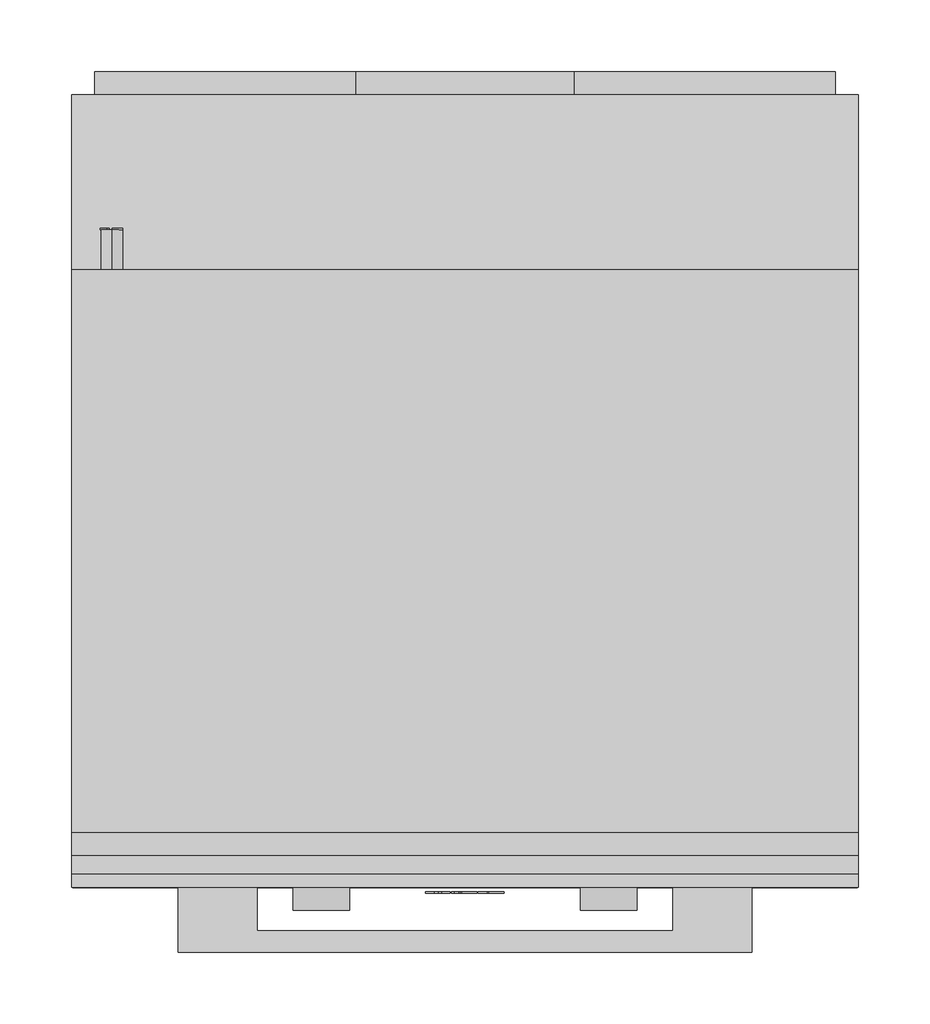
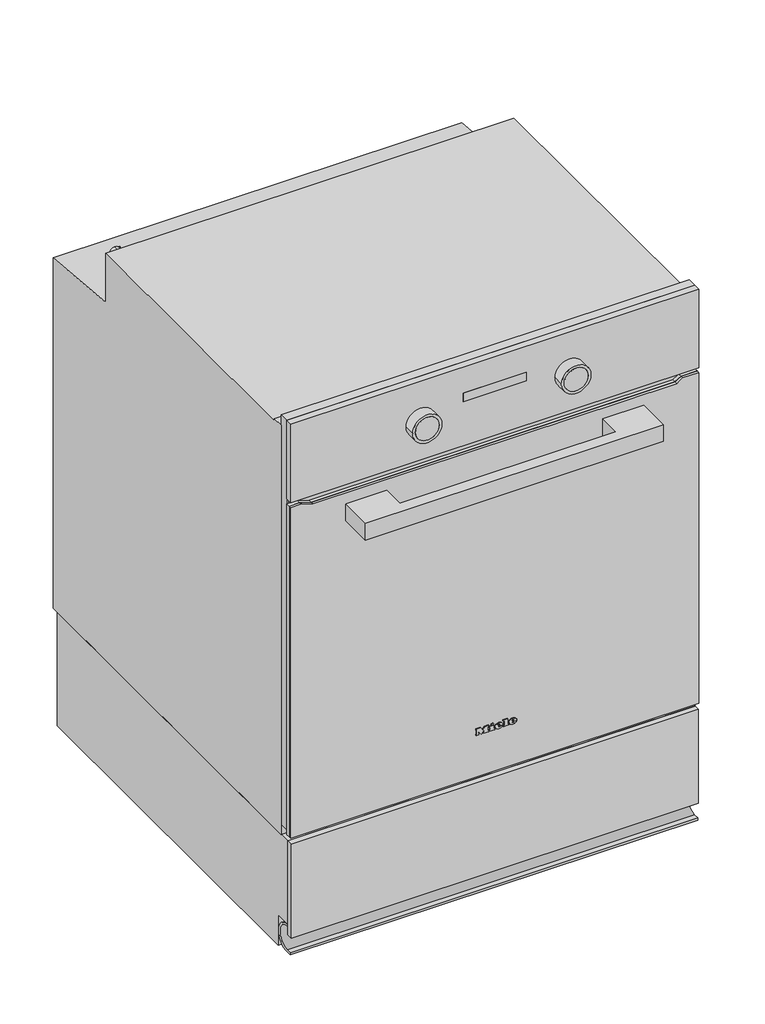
# Not in any storey: 1 proxy.
"""IFC4 building model written with IfcOpenShell, lengths in millimetres."""

import ifcopenshell
import ifcopenshell.guid

model = None  # the IFC model being written
_history = None  # IfcOwnerHistory: only IFC2X3 demands one
_inside = {}  # id of a spatial element -> (the spatial element, [elements in it])
_under = {}  # id of a project, library or spatial element -> (it, [spatial elements below it])
_declared = {}  # id of a project -> (the project, [libraries it declares])
_typed = {}  # id of a type object -> (the type object, [elements of that type])
_made_of = {}  # id of a material, layer set ... -> (it, [elements and type objects made of it])


def new_model(schema):
    """Start an empty IFC model of exactly this schema.

    Asked for "IFC4X3", IfcOpenShell would pick the latest addendum, in which some entities
    have other attributes; the version numbers below select the first issue.
    IFC2X3 requires an IfcOwnerHistory on every rooted entity: one is made here for all.
    """
    global model, _history
    if schema == "IFC4X3":
        model = ifcopenshell.file(schema_version=(4, 3, 0, 0))
    else:
        model = ifcopenshell.file(schema=schema)
    _inside.clear()
    _under.clear()
    _declared.clear()
    _typed.clear()
    _made_of.clear()
    _history = None
    if model.schema == "IFC2X3":
        org = make("IfcOrganization", Name="unknown")
        user = make(
            "IfcPersonAndOrganization",
            ThePerson=make("IfcPerson", FamilyName="unknown"),
            TheOrganization=org,
        )
        app = make(
            "IfcApplication",
            ApplicationDeveloper=org,
            Version="unknown",
            ApplicationFullName="unknown",
            ApplicationIdentifier="unknown",
        )
        _history = make(
            "IfcOwnerHistory",
            OwningUser=user,
            OwningApplication=app,
            ChangeAction="ADDED",
            CreationDate=0,
        )
    return model


def make(cls, **values):
    """One entity of the class cls with the attributes given. An attribute that is None is left unset."""
    return model.create_entity(
        cls, **{name: value for name, value in values.items() if value is not None}
    )


def rooted(cls, **values):
    """An entity with a GlobalId (a new one), such as an element, a storey or a relation."""
    return make(cls, GlobalId=ifcopenshell.guid.new(), OwnerHistory=_history, **values)


def si_unit(unit_type, name, prefix=None):
    """IfcSIUnit, for example si_unit("LENGTHUNIT", "METRE", prefix="MILLI")."""
    return make("IfcSIUnit", UnitType=unit_type, Prefix=prefix, Name=name)


def assignment(units):
    """IfcUnitAssignment: the units of a project."""
    return None if units is None else make("IfcUnitAssignment", Units=units)


def point(xyz):
    """IfcCartesianPoint."""
    return None if xyz is None else make("IfcCartesianPoint", Coordinates=xyz)


def direction(xyz):
    """IfcDirection."""
    return None if xyz is None else make("IfcDirection", DirectionRatios=xyz)


def frame(location, z_axis=None, x_axis=None):
    """IfcAxis2Placement3D, a coordinate frame: its origin and axes. An axis left out is left unset."""
    return make(
        "IfcAxis2Placement3D",
        Location=point(location),
        Axis=direction(z_axis),
        RefDirection=direction(x_axis),
    )


def frame_2d(location, x_axis=None):
    """IfcAxis2Placement2D, a coordinate frame in the plane: its origin and x axis."""
    return make(
        "IfcAxis2Placement2D", Location=point(location), RefDirection=direction(x_axis)
    )


def origin():
    """The frame at (0, 0, 0) with its axes left unset."""
    return frame((0.0, 0.0, 0.0))


def place(relative_to, where):
    """IfcLocalPlacement: puts the frame where relative to a parent placement (None: the world)."""
    return make(
        "IfcLocalPlacement", PlacementRelTo=relative_to, RelativePlacement=where
    )


def context(
    kind, dimensions, precision=None, world=None, true_north=None, identifier=None
):
    """IfcGeometricRepresentationContext, for example the 3D "Model" context."""
    return make(
        "IfcGeometricRepresentationContext",
        ContextIdentifier=identifier,
        ContextType=kind,
        CoordinateSpaceDimension=dimensions,
        Precision=precision,
        WorldCoordinateSystem=world,
        TrueNorth=true_north,
    )


def project(units=None, contexts=None):
    """IfcProject with its units and contexts."""
    return rooted(
        "IfcProject",
        Name="project",
        RepresentationContexts=contexts,
        UnitsInContext=assignment(units),
    )


def spatial(cls, under=None, at=None, **own):
    """A site, building, storey or space (cls), placed at a placement, below another one or the project."""
    s = rooted(cls, ObjectPlacement=at, **own)
    if under is not None:
        _under.setdefault(under.id(), (under, []))[1].append(s)
    return s


def polyline(points):
    """IfcPolyline through the points."""
    return make("IfcPolyline", Points=[point(p) for p in points])


def circle_curve(where, radius):
    """IfcCircle in the frame where."""
    return make("IfcCircle", Position=where, Radius=radius)


def ellipse_curve(where, semi_axis1, semi_axis2):
    """IfcEllipse in the frame where."""
    return make(
        "IfcEllipse", Position=where, SemiAxis1=semi_axis1, SemiAxis2=semi_axis2
    )


def trimmed(basis, trim1, trim2, sense, master):
    """IfcTrimmedCurve: the piece of a basis curve between two trims."""
    return make(
        "IfcTrimmedCurve",
        BasisCurve=basis,
        Trim1=trim1,
        Trim2=trim2,
        SenseAgreement=sense,
        MasterRepresentation=master,
    )


def segment(curve, same_sense, transition):
    """IfcCompositeCurveSegment."""
    return make(
        "IfcCompositeCurveSegment",
        Transition=transition,
        SameSense=same_sense,
        ParentCurve=curve,
    )


def composite_curve(segments, self_intersect=None):
    """IfcCompositeCurve: segments joined end to end."""
    return make("IfcCompositeCurve", Segments=segments, SelfIntersect=self_intersect)


def outline(outer, holes=None, kind="AREA"):
    """IfcArbitraryClosedProfileDef: a profile drawn as a closed curve; with holes, ...WithVoids."""
    if holes is None:
        return make("IfcArbitraryClosedProfileDef", ProfileType=kind, OuterCurve=outer)
    return make(
        "IfcArbitraryProfileDefWithVoids",
        ProfileType=kind,
        OuterCurve=outer,
        InnerCurves=holes,
    )


def extrude(swept, where, along, depth):
    """IfcExtrudedAreaSolid: the profile swept, set in the frame where, extruded along a direction by depth."""
    return make(
        "IfcExtrudedAreaSolid",
        SweptArea=swept,
        Position=where,
        ExtrudedDirection=direction(along),
        Depth=depth,
    )


def faces_of(points, faces, orient=None, outer=None):
    """IfcFace entities. A face is a list of loops; a loop is a list of indices into points, from 0.

    orient and outer hold one flag for each loop. By default every Orientation is true, the
    first loop of a face is its IfcFaceOuterBound and the others are IfcFaceBound.
    """
    made = []
    for i, loops in enumerate(faces):
        bounds = []
        for j, loop in enumerate(loops):
            is_outer = j == 0 if outer is None else outer[i][j]
            bounds.append(
                make(
                    "IfcFaceOuterBound" if is_outer else "IfcFaceBound",
                    Bound=make("IfcPolyLoop", Polygon=[points[k] for k in loop]),
                    Orientation=True if orient is None else orient[i][j],
                )
            )
        made.append(make("IfcFace", Bounds=bounds))
    return made


def faceted_brep(points, faces, orient=None, outer=None, voids=None):
    """IfcFacetedBrep: a solid bounded by flat faces; with voids (closed shells), ...WithVoids."""
    shared = [point(p) for p in points]
    hull = make("IfcClosedShell", CfsFaces=faces_of(shared, faces, orient, outer))
    if voids is None:
        return make("IfcFacetedBrep", Outer=hull)
    return make(
        "IfcFacetedBrepWithVoids",
        Outer=hull,
        Voids=[
            make(cls, CfsFaces=faces_of(shared, fs, o, b)) for cls, fs, o, b in voids
        ],
    )


def shape(context_of_items, identifier, shape_type, items):
    """IfcShapeRepresentation: the items that make up one representation, for example the "Body"."""
    return make(
        "IfcShapeRepresentation",
        ContextOfItems=context_of_items,
        RepresentationIdentifier=identifier,
        RepresentationType=shape_type,
        Items=items,
    )


def source(mapping_origin, context_of_items, identifier, shape_type, items):
    """IfcRepresentationMap: a shape defined once, which mapped items show again and again."""
    return make(
        "IfcRepresentationMap",
        MappingOrigin=mapping_origin,
        MappedRepresentation=shape(context_of_items, identifier, shape_type, items),
    )


def transform(
    local_origin,
    x_axis=None,
    y_axis=None,
    z_axis=None,
    scale=None,
    scale2=None,
    scale3=None,
    uniform=True,
):
    """IfcCartesianTransformationOperator3D, or its non-uniform kind. x_axis, y_axis, z_axis: its Axis1, 2, 3."""
    if uniform:
        return make(
            "IfcCartesianTransformationOperator3D",
            Axis1=direction(x_axis),
            Axis2=direction(y_axis),
            LocalOrigin=point(local_origin),
            Scale=scale,
            Axis3=direction(z_axis),
        )
    return make(
        "IfcCartesianTransformationOperator3DnonUniform",
        Axis1=direction(x_axis),
        Axis2=direction(y_axis),
        LocalOrigin=point(local_origin),
        Scale=scale,
        Axis3=direction(z_axis),
        Scale2=scale2,
        Scale3=scale3,
    )


def mapped(mapping_source, mapping_target):
    """IfcMappedItem: shows the shape of a source again, moved by a transform."""
    return make(
        "IfcMappedItem", MappingSource=mapping_source, MappingTarget=mapping_target
    )


def made_of(thing, what):
    """Note that an element or type object is made of a material, layer set ...; save() writes the relation."""
    if what is not None:
        _made_of.setdefault(what.id(), (what, []))[1].append(thing)
    return thing


def element(
    cls,
    number,
    at=None,
    inside=None,
    cuts=None,
    type_object=None,
    material=None,
    context=None,
    identifier="Body",
    shape_type=None,
    held_by="IfcProductDefinitionShape",
    body=None,
    shapes=None,
    **own,
):
    """One element of the class cls, such as IfcWall. Its Tag is "e" and its number.

    at: its placement. inside: the storey or other place that contains it. cuts: it is an
    opening in that element (IfcRelVoidsElement). A single representation is given by context,
    identifier, shape_type and body (its items); several are given by shapes. held_by: the class
    of the entity that holds the representations. save() writes the other relations.
    """
    e = rooted(cls, Tag="e%d" % number, ObjectPlacement=at, **own)
    if body is not None:
        shapes = [shape(context, identifier, shape_type, body)]
    if shapes is not None:
        e.Representation = make(held_by, Representations=shapes)
    if inside is not None:
        _inside.setdefault(inside.id(), (inside, []))[1].append(e)
    if cuts is not None:
        rooted(
            "IfcRelVoidsElement", RelatingBuildingElement=cuts, RelatedOpeningElement=e
        )
    if type_object is not None:
        _typed.setdefault(type_object.id(), (type_object, []))[1].append(e)
    return made_of(e, material)


def aggregate(whole, parts):
    """IfcRelAggregates: a whole, such as a stair, and the parts it consists of."""
    return rooted("IfcRelAggregates", RelatingObject=whole, RelatedObjects=parts)


def save(model, path):
    """Write the relations noted so far, then the file.

    IfcRelAggregates (storeys below a building ...), IfcRelContainedInSpatialStructure (elements
    in a storey), IfcRelDefinesByType, IfcRelAssociatesMaterial and IfcRelDeclares: one each for
    every whole, place, type object, material and project.
    """
    for whole, parts in _under.values():
        aggregate(whole, parts)
    for where, things in _inside.values():
        rooted(
            "IfcRelContainedInSpatialStructure",
            RelatedElements=things,
            RelatingStructure=where,
        )
    for kind, things in _typed.values():
        rooted("IfcRelDefinesByType", RelatedObjects=things, RelatingType=kind)
    for what, things in _made_of.values():
        rooted("IfcRelAssociatesMaterial", RelatedObjects=things, RelatingMaterial=what)
    for by, libraries in _declared.values():
        rooted("IfcRelDeclares", RelatingContext=by, RelatedDefinitions=libraries)
    model.write(path)


def plane_surface(at):
    """IfcPlane: the flat surface through the origin of the frame at, square to its z axis."""
    return make("IfcPlane", Position=at)


def cylinder_surface(at, radius):
    """IfcCylindricalSurface: all points at the distance radius from the z axis of the frame at."""
    return make("IfcCylindricalSurface", Position=at, Radius=radius)


def revolved_surface(curve, axis_point, axis_direction):
    """IfcSurfaceOfRevolution: the curve turned about the line through axis_point along axis_direction."""
    return make(
        "IfcSurfaceOfRevolution",
        SweptCurve=make("IfcArbitraryOpenProfileDef", ProfileType="CURVE", Curve=curve),
        AxisPosition=make("IfcAxis1Placement", Location=point(axis_point), Axis=direction(axis_direction)),
    )


def extruded_surface(curve, direction_of_extrusion, depth):
    """IfcSurfaceOfLinearExtrusion: the curve pushed along a direction by depth."""
    return make(
        "IfcSurfaceOfLinearExtrusion",
        SweptCurve=make("IfcArbitraryOpenProfileDef", ProfileType="CURVE", Curve=curve),
        ExtrudedDirection=direction(direction_of_extrusion),
        Depth=depth,
    )


def advanced_brep(points, edges, surfaces, faces):
    """IfcAdvancedBrep: a solid bounded by faces that lie on surfaces and meet in shared edges.

    An edge is (start, end): straight between two places in points (the first is 0);
    or (start, end, curve); or (start, end, curve, False) where it runs against its curve.
    A face is (place in surfaces, loops), or (place, loops, False) where it looks against
    its surface's normal. A loop lists edges by number (the first is 1), with a minus sign
    where the edge is run from its end to its start. The first loop is the outer one.
    """
    corners = [point(p) for p in points]
    vertices = [make("IfcVertexPoint", VertexGeometry=c) for c in corners]
    made = []
    for start, end, *more in edges:
        made.append(
            make(
                "IfcEdgeCurve",
                EdgeStart=vertices[start],
                EdgeEnd=vertices[end],
                EdgeGeometry=more[0] if more else make("IfcPolyline", Points=[corners[start], corners[end]]),
                SameSense=more[1] if len(more) > 1 else True,
            )
        )
    hull = []
    for where, loops, *sense in faces:
        bounds = []
        for j, loop in enumerate(loops):
            ring = [make("IfcOrientedEdge", EdgeElement=made[abs(k) - 1], Orientation=k > 0) for k in loop]
            bounds.append(
                make(
                    "IfcFaceOuterBound" if j == 0 else "IfcFaceBound",
                    Bound=make("IfcEdgeLoop", EdgeList=ring),
                    Orientation=True,
                )
            )
        hull.append(make("IfcAdvancedFace", Bounds=bounds, FaceSurface=surfaces[where], SameSense=sense[0] if sense else True))
    return make("IfcAdvancedBrep", Outer=make("IfcClosedShell", CfsFaces=hull))


def specialty_equipment_9ac13989(model_context):
    return source(origin(), model_context, "Body", "SolidModel", [
        extrude(outline(polyline([(-273.5, -14.0), (273.5, -14.0), (273.5, -22.0), (-273.5, -22.0), (-273.5, -14.0)])), frame((0.0, 0.0, 28.0), z_axis=(0.0, 0.0, 1.0), x_axis=(1.0, 0.0, 0.0)), (0.0, 0.0, 1.0), 133.5),
        extrude(outline(composite_curve([segment(polyline([(-20.0, 3.3413786), (-20.0, 6.5166751), (-12.6417749, 6.5166751)]), True, "CONTINUOUS"), segment(trimmed(circle_curve(frame_2d((-12.6417749, 23.0333249)), 16.5166498), [point((-12.6417749, 6.5166751))], [point((-11.3579007, 39.5))], True, "CARTESIAN"), True, "CONTINUOUS"), segment(polyline([(-11.3579007, 39.5), (-14.0, 39.5), (-14.0, 42.0), (-12.0, 42.0)]), True, "CONTINUOUS"), segment(trimmed(circle_curve(frame_2d((-12.0, 23.0)), 19.0), [point((-12.0, 42.0))], [point((7.0, 23.0))], False, "CARTESIAN"), True, "CONTINUOUS"), segment(trimmed(circle_curve(frame_2d((-14.9470942, 23.0)), 21.9470942), [point((7.0, 23.0))], [point((3.3965309, 10.9506696))], False, "CARTESIAN"), True, "CONTINUOUS"), segment(trimmed(circle_curve(frame_2d((-12.0, 22.7225846)), 19.381206), [point((3.3965309, 10.9506696))], [point((-12.0, 3.3413786))], False, "CARTESIAN"), True, "CONTINUOUS"), segment(polyline([(-12.0, 3.3413786), (-20.0, 3.3413786)]), True, "CONTINUOUS")], self_intersect=False)), frame((-273.5, 0.0, 0.0), z_axis=(1.0, 0.0, 0.0), x_axis=(0.0, 1.0, 0.0)), (0.0, 0.0, 1.0), 547.0),
        extrude(outline(polyline([(-14.0, 162.0), (522.0, 162.0), (522.0, 0.0), (8.0, 0.0), (8.0, 43.1784801), (-14.0, 43.1784801), (-14.0, 162.0)])), frame((-273.5, 0.0, 0.0), z_axis=(1.0, 0.0, 0.0), x_axis=(0.0, 1.0, 0.0)), (0.0, 0.0, 1.0), 547.0),
        advanced_brep(
        [(21.28, -26.0, 234.133), (21.28, -26.0, 235.042), (27.301, -26.0, 235.042), (16.825, -26.0, 235.042), (19.3, -26.0, 232.0), (27.148, -26.0, 234.133), (24.43, -26.0, 234.133), (22.288, -26.0, 233.125), (21.28, -26.0, 236.194), (21.28, -26.0, 237.175), (22.819, -26.0, 237.175), (22.819, -26.0, 236.194), (21.28, -25.0, 234.133), (22.288, -25.0, 233.125), (24.43, -25.0, 234.133), (27.148, -25.0, 234.133), (19.3, -25.0, 232.0), (16.825, -25.0, 235.042), (27.301, -25.0, 235.042), (21.28, -25.0, 235.042), (21.28, -25.0, 236.194), (22.819, -25.0, 236.194), (22.819, -25.0, 237.175), (21.28, -25.0, 237.175)],
        [
            (0, 1),
            (1, 2),
            (2, 3, ellipse_curve(frame((22.063, -26.0, 235.042), z_axis=(0.0, -1.0, 0.0), x_axis=(-1.0, 0.0, 0.0)), 5.238, 4.329)),
            (3, 4, circle_curve(frame((20.3080491, -26.0, 235.348), z_axis=(0.0, -1.0, 0.0), x_axis=(0.0, 0.0, -1.0)), 3.4964649)),
            (4, 5, circle_curve(frame((21.9581428, -26.0, 237.724), z_axis=(0.0, -1.0, 0.0), x_axis=(0.0, 0.0, -1.0)), 6.3110933)),
            (5, 6),
            (6, 7, circle_curve(frame((22.7279412, -26.0, 234.97), z_axis=(0.0, 1.0, 0.0), x_axis=(0.0, 0.0, -1.0)), 1.896727)),
            (7, 0, circle_curve(frame((22.288, -26.0, 234.133), z_axis=(0.0, 1.0, 0.0), x_axis=(0.0, 0.0, -1.0)), 1.008)),
            (8, 9),
            (9, 10, circle_curve(frame((22.0495, -26.0, 237.175), z_axis=(0.0, 1.0, 0.0), x_axis=(0.0, 0.0, -1.0)), 0.7695)),
            (10, 11),
            (11, 8),
            (12, 13, circle_curve(frame((22.288, -25.0, 234.133), z_axis=(0.0, -1.0, 0.0), x_axis=(0.0, 0.0, -1.0)), 1.008)),
            (13, 14, circle_curve(frame((22.7279412, -25.0, 234.97), z_axis=(0.0, -1.0, 0.0), x_axis=(0.0, 0.0, -1.0)), 1.896727)),
            (14, 15),
            (15, 16, circle_curve(frame((21.9581428, -25.0, 237.724), z_axis=(0.0, 1.0, 0.0), x_axis=(0.0, 0.0, -1.0)), 6.3110933)),
            (16, 17, circle_curve(frame((20.3080491, -25.0, 235.348), z_axis=(0.0, 1.0, 0.0), x_axis=(0.0, 0.0, -1.0)), 3.4964649)),
            (17, 18, ellipse_curve(frame((22.063, -25.0, 235.042), z_axis=(0.0, 1.0, 0.0), x_axis=(-1.0, 0.0, 0.0)), 5.238, 4.329)),
            (18, 19),
            (19, 12),
            (20, 21),
            (21, 22),
            (22, 23, circle_curve(frame((22.0495, -25.0, 237.175), z_axis=(0.0, -1.0, 0.0), x_axis=(0.0, 0.0, -1.0)), 0.7695)),
            (23, 20),
            (0, 12),
            (19, 1),
            (18, 2),
            (5, 15),
            (14, 6),
            (17, 3),
            (13, 7),
            (16, 4),
            (8, 20),
            (23, 9),
            (22, 10),
            (21, 11),
        ],
        [
            plane_surface(frame((21.28, -26.0, 235.042), z_axis=(0.0, -1.0, 0.0), x_axis=(0.0, 0.0, 1.0))),
            plane_surface(frame((21.28, -25.0, 235.042), z_axis=(0.0, 1.0, 0.0), x_axis=(0.0, 0.0, -1.0))),
            plane_surface(frame((21.28, -26.0, 234.133), z_axis=(1.0, 0.0, 0.0), x_axis=(0.0, 1.0, 0.0))),
            plane_surface(frame((21.28, -26.0, 235.042), z_axis=(0.0, 0.0, -1.0), x_axis=(0.0, 1.0, 0.0))),
            plane_surface(frame((27.148, -26.0, 234.133), z_axis=(0.0, 0.0, 1.0), x_axis=(0.0, 1.0, 0.0))),
            extruded_surface(trimmed(ellipse_curve(frame((22.063, -24.0, 235.042), z_axis=(0.0, -1.0, 0.0), x_axis=(-1.0, 0.0, 0.0)), 5.238, 4.329), [point((27.301, -24.0, 235.042))], [point((16.825, -24.0, 235.042))], True, "CARTESIAN"), (0.0, -1.0, 0.0), 1.0),
            revolved_surface(polyline([(22.7279412, -25.0, 233.073273), (22.7279412, -26.0, 233.073273)]), (22.7279412, -25.0, 234.97), (0.0, 1.0, 0.0)),
            revolved_surface(polyline([(22.288, -25.0, 233.125), (22.288, -26.0, 233.125)]), (22.288, -25.0, 234.133), (0.0, 1.0, 0.0)),
            cylinder_surface(frame((20.3080491, -25.0, 235.348), z_axis=(0.0, -1.0, 0.0), x_axis=(0.0, 0.0, -1.0)), 3.4964649),
            cylinder_surface(frame((21.9581428, -25.0, 237.724), z_axis=(0.0, -1.0, 0.0), x_axis=(0.0, 0.0, -1.0)), 6.3110933),
            plane_surface(frame((21.28, -26.0, 236.194), z_axis=(1.0, 0.0, 0.0), x_axis=(0.0, 1.0, 0.0))),
            revolved_surface(polyline([(22.0495, -25.0, 236.40550000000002), (22.0495, -26.0, 236.40550000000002)]), (22.0495, -25.0, 237.175), (0.0, 1.0, 0.0)),
            plane_surface(frame((22.819, -26.0, 237.175), z_axis=(-1.0, 0.0, 0.0), x_axis=(0.0, 1.0, 0.0))),
            plane_surface(frame((22.819, -26.0, 236.194), z_axis=(0.0, 0.0, 1.0), x_axis=(0.0, 1.0, 0.0))),
        ],
        [
            (0, [[1, 2, 3, 4, 5, 6, 7, 8], [9, 10, 11, 12]]),
            (1, [[13, 14, 15, 16, 17, 18, 19, 20], [21, 22, 23, 24]]),
            (2, [[-1, 25, -20, 26]]),
            (3, [[-2, -26, -19, 27]]),
            (4, [[-6, 28, -15, 29]]),
            (5, [[-3, -27, -18, 30]]),
            (6, [[-7, -29, -14, 31]]),
            (7, [[-8, -31, -13, -25]]),
            (8, [[-4, -30, -17, 32]]),
            (9, [[-5, -32, -16, -28]]),
            (10, [[-9, 33, -24, 34]]),
            (11, [[-10, -34, -23, 35]]),
            (12, [[-11, -35, -22, 36]]),
            (13, [[-12, -36, -21, -33]]),
        ],
    ),
        advanced_brep(
        [(2.497, -26.0, 234.133), (2.497, -26.0, 235.042), (8.518, -26.0, 235.042), (-1.958, -26.0, 235.042), (0.517, -26.0, 232.0), (8.365, -26.0, 234.133), (5.647, -26.0, 234.133), (3.505, -26.0, 233.125), (2.497, -26.0, 236.194), (2.497, -26.0, 237.175), (4.036, -26.0, 237.175), (4.036, -26.0, 236.194), (2.497, -25.0, 234.133), (3.505, -25.0, 233.125), (5.647, -25.0, 234.133), (8.365, -25.0, 234.133), (0.517, -25.0, 232.0), (-1.958, -25.0, 235.042), (8.518, -25.0, 235.042), (2.497, -25.0, 235.042), (2.497, -25.0, 236.194), (4.036, -25.0, 236.194), (4.036, -25.0, 237.175), (2.497, -25.0, 237.175)],
        [
            (0, 1),
            (1, 2),
            (2, 3, ellipse_curve(frame((3.28, -26.0, 235.042), z_axis=(0.0, -1.0, 0.0), x_axis=(-1.0, 0.0, 0.0)), 5.238, 4.329)),
            (3, 4, circle_curve(frame((1.5250491, -26.0, 235.348), z_axis=(0.0, -1.0, 0.0), x_axis=(0.0, 0.0, -1.0)), 3.4964649)),
            (4, 5, circle_curve(frame((3.1751428, -26.0, 237.724), z_axis=(0.0, -1.0, 0.0), x_axis=(0.0, 0.0, -1.0)), 6.3110933)),
            (5, 6),
            (6, 7, circle_curve(frame((3.9449412, -26.0, 234.97), z_axis=(0.0, 1.0, 0.0), x_axis=(0.0, 0.0, -1.0)), 1.896727)),
            (7, 0, circle_curve(frame((3.505, -26.0, 234.133), z_axis=(0.0, 1.0, 0.0), x_axis=(0.0, 0.0, -1.0)), 1.008)),
            (8, 9),
            (9, 10, circle_curve(frame((3.2665, -26.0, 237.175), z_axis=(0.0, 1.0, 0.0), x_axis=(0.0, 0.0, -1.0)), 0.7695)),
            (10, 11),
            (11, 8),
            (12, 13, circle_curve(frame((3.505, -25.0, 234.133), z_axis=(0.0, -1.0, 0.0), x_axis=(0.0, 0.0, -1.0)), 1.008)),
            (13, 14, circle_curve(frame((3.9449412, -25.0, 234.97), z_axis=(0.0, -1.0, 0.0), x_axis=(0.0, 0.0, -1.0)), 1.896727)),
            (14, 15),
            (15, 16, circle_curve(frame((3.1751428, -25.0, 237.724), z_axis=(0.0, 1.0, 0.0), x_axis=(0.0, 0.0, -1.0)), 6.3110933)),
            (16, 17, circle_curve(frame((1.5250491, -25.0, 235.348), z_axis=(0.0, 1.0, 0.0), x_axis=(0.0, 0.0, -1.0)), 3.4964649)),
            (17, 18, ellipse_curve(frame((3.28, -25.0, 235.042), z_axis=(0.0, 1.0, 0.0), x_axis=(-1.0, 0.0, 0.0)), 5.238, 4.329)),
            (18, 19),
            (19, 12),
            (20, 21),
            (21, 22),
            (22, 23, circle_curve(frame((3.2665, -25.0, 237.175), z_axis=(0.0, -1.0, 0.0), x_axis=(0.0, 0.0, -1.0)), 0.7695)),
            (23, 20),
            (0, 12),
            (19, 1),
            (18, 2),
            (5, 15),
            (14, 6),
            (17, 3),
            (13, 7),
            (16, 4),
            (8, 20),
            (23, 9),
            (22, 10),
            (21, 11),
        ],
        [
            plane_surface(frame((2.497, -26.0, 235.042), z_axis=(0.0, -1.0, 0.0), x_axis=(0.0, 0.0, 1.0))),
            plane_surface(frame((2.497, -25.0, 235.042), z_axis=(0.0, 1.0, 0.0), x_axis=(0.0, 0.0, -1.0))),
            plane_surface(frame((2.497, -26.0, 234.133), z_axis=(1.0, 0.0, 0.0), x_axis=(0.0, 1.0, 0.0))),
            plane_surface(frame((2.497, -26.0, 235.042), z_axis=(0.0, 0.0, -1.0), x_axis=(0.0, 1.0, 0.0))),
            plane_surface(frame((8.365, -26.0, 234.133), z_axis=(0.0, 0.0, 1.0), x_axis=(0.0, 1.0, 0.0))),
            extruded_surface(trimmed(ellipse_curve(frame((3.28, -24.0, 235.042), z_axis=(0.0, -1.0, 0.0), x_axis=(-1.0, 0.0, 0.0)), 5.238, 4.329), [point((8.518, -24.0, 235.042))], [point((-1.958, -24.0, 235.042))], True, "CARTESIAN"), (0.0, -1.0, 0.0), 1.0),
            revolved_surface(polyline([(3.9449412, -25.0, 233.073273), (3.9449412, -26.0, 233.073273)]), (3.9449412, -25.0, 234.97), (0.0, 1.0, 0.0)),
            revolved_surface(polyline([(3.505, -25.0, 233.125), (3.505, -26.0, 233.125)]), (3.505, -25.0, 234.133), (0.0, 1.0, 0.0)),
            cylinder_surface(frame((1.5250491, -25.0, 235.348), z_axis=(0.0, -1.0, 0.0), x_axis=(0.0, 0.0, -1.0)), 3.4964649),
            cylinder_surface(frame((3.1751428, -25.0, 237.724), z_axis=(0.0, -1.0, 0.0), x_axis=(0.0, 0.0, -1.0)), 6.3110933),
            plane_surface(frame((2.497, -26.0, 236.194), z_axis=(1.0, 0.0, 0.0), x_axis=(0.0, 1.0, 0.0))),
            revolved_surface(polyline([(3.2665, -25.0, 236.40550000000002), (3.2665, -26.0, 236.40550000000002)]), (3.2665, -25.0, 237.175), (0.0, 1.0, 0.0)),
            plane_surface(frame((4.036, -26.0, 237.175), z_axis=(-1.0, 0.0, 0.0), x_axis=(0.0, 1.0, 0.0))),
            plane_surface(frame((4.036, -26.0, 236.194), z_axis=(0.0, 0.0, 1.0), x_axis=(0.0, 1.0, 0.0))),
        ],
        [
            (0, [[1, 2, 3, 4, 5, 6, 7, 8], [9, 10, 11, 12]]),
            (1, [[13, 14, 15, 16, 17, 18, 19, 20], [21, 22, 23, 24]]),
            (2, [[-1, 25, -20, 26]]),
            (3, [[-2, -26, -19, 27]]),
            (4, [[-6, 28, -15, 29]]),
            (5, [[-3, -27, -18, 30]]),
            (6, [[-7, -29, -14, 31]]),
            (7, [[-8, -31, -13, -25]]),
            (8, [[-4, -30, -17, 32]]),
            (9, [[-5, -32, -16, -28]]),
            (10, [[-9, 33, -24, 34]]),
            (11, [[-10, -34, -23, 35]]),
            (12, [[-11, -35, -22, 36]]),
            (13, [[-12, -36, -21, -33]]),
        ],
    ),
        extrude(outline(polyline([(240.469, -7.34), (239.011, -6.656), (240.433, -3.605), (241.891, -4.28), (240.469, -7.34)])), frame((0.0, -26.0, 0.0), z_axis=(0.0, 1.0, 0.0), x_axis=(0.0, 0.0, 1.0)), (0.0, 0.0, 1.0), 1.0),
        extrude(outline(polyline([(238.813, -9.563), (237.202, -9.563), (237.202, -8.492), (233.512, -8.492), (233.512, -9.563), (232.0, -9.563), (232.0, -2.462), (233.512, -2.462), (233.512, -3.506), (238.813, -3.506), (238.813, -9.563)])), frame((0.0, -26.0, 0.0), z_axis=(0.0, 1.0, 0.0), x_axis=(0.0, 0.0, 1.0)), (0.0, 0.0, 1.0), 1.0),
        extrude(outline(polyline([(239.533, 9.022), (239.533, 10.102), (233.512, 10.102), (233.512, 9.022), (232.0, 9.022), (232.0, 16.321), (233.512, 16.321), (233.512, 15.214), (241.0, 15.214), (241.0, 9.022), (239.533, 9.022)])), frame((0.0, -26.0, 0.0), z_axis=(0.0, 1.0, 0.0), x_axis=(0.0, 0.0, 1.0)), (0.0, 0.0, 1.0), 1.0),
        extrude(outline(polyline([(239.533, -27.5), (239.533, -26.411), (233.512, -26.411), (233.512, -27.5), (232.0, -27.5), (232.0, -23.54), (233.512, -23.54), (233.512, -24.62), (237.3341247, -24.62), (232.0, -20.597), (237.4402223, -16.556), (233.512, -16.556), (233.512, -17.663), (232.0, -17.663), (232.0, -10.481), (233.512, -10.481), (233.512, -11.624), (239.533, -11.624), (239.533, -10.481), (241.0, -10.481), (241.0, -15.962), (237.625, -18.59), (241.0, -21.227), (241.0, -27.5), (239.533, -27.5)])), frame((0.0, -26.0, 0.0), z_axis=(0.0, 1.0, 0.0), x_axis=(0.0, 0.0, 1.0)), (0.0, 0.0, 1.0), 1.0),
        extrude(outline(polyline([(-200.0, -67.0), (-200.0, -22.0), (-145.0, -22.0), (-145.0, -52.0), (145.0, -52.0), (145.0, -22.0), (200.0, -22.0), (200.0, -67.0), (-200.0, -67.0)])), frame((0.0, 0.0, 595.0), z_axis=(0.0, 0.0, 1.0), x_axis=(1.0, 0.0, 0.0)), (0.0, 0.0, 1.0), 24.0),
        extrude(outline(polyline([(639.5, -274.0), (170.0, -274.0), (170.0, 274.0), (639.5, 274.0), (639.5, 252.5209298), (634.5, 244.0), (634.5, -244.0), (639.5, -260.3542631), (639.5, -274.0)])), frame((0.0, -18.0, 0.0), z_axis=(0.0, 1.0, 0.0), x_axis=(0.0, 0.0, 1.0)), (0.0, 0.0, 1.0), 5.0),
        extrude(outline(polyline([(639.5, -274.0), (170.0, -274.0), (170.0, 274.0), (639.5, 274.0), (639.5, 252.5209298), (634.5, 244.0), (634.5, -244.0), (639.5, -260.3542631), (639.5, -274.0)])), frame((0.0, -22.0, 0.0), z_axis=(0.0, 1.0, 0.0), x_axis=(0.0, 0.0, 1.0)), (0.0, 0.0, 1.0), 4.0),
        extrude(outline(polyline([(42.5, -22.0), (-42.5, -22.0), (-42.5, -20.0), (42.5, -20.0), (42.5, -22.0)])), frame((0.0, 0.0, 709.0), z_axis=(0.0, 0.0, 1.0), x_axis=(1.0, 0.0, 0.0)), (0.0, 0.0, 1.0), 12.0),
        faceted_brep([(274.0, -13.0, 758.0), (274.0, -13.0, 646.5), (-274.0, -13.0, 646.5), (-274.0, -13.0, 758.0), (274.0, -22.0, 646.5), (-274.0, -22.0, 646.5), (274.0, -22.0, 758.0), (-274.0, -22.0, 758.0), (-42.5, -22.0, 721.0), (42.5, -22.0, 721.0), (42.5, -22.0, 709.0), (-42.5, -22.0, 709.0), (-42.5, -20.0, 721.0), (42.5, -20.0, 721.0), (-42.5, -20.0, 709.0), (42.5, -20.0, 709.0)], [[[0, 1, 2, 3]], [[4, 5, 2, 1]], [[6, 7, 5, 4], [8, 9, 10, 11]], [[12, 13, 9, 8]], [[7, 6, 0, 3]], [[5, 7, 3, 2]], [[6, 4, 1, 0]], [[13, 12, 14, 15]], [[14, 12, 8, 11]], [[15, 14, 11, 10]], [[13, 15, 10, 9]]]),
        extrude(outline(composite_curve([segment(trimmed(circle_curve(frame_2d((700.5, -100.0)), 16.0), [point((700.5, -116.0))], [point((700.5, -84.0))], False, "CARTESIAN"), True, "CONTINUOUS"), segment(trimmed(circle_curve(frame_2d((700.5, -100.0)), 16.0), [point((700.5, -84.0))], [point((700.5, -116.0))], False, "CARTESIAN"), True, "CONTINUOUS")], self_intersect=False)), frame((0.0, -38.0, 0.0), z_axis=(0.0, 1.0, 0.0), x_axis=(0.0, 0.0, 1.0)), (0.0, 0.0, 1.0), 16.0),
        extrude(outline(composite_curve([segment(trimmed(circle_curve(frame_2d((700.5, 100.0)), 16.0), [point((700.5, 84.0))], [point((700.5, 116.0))], False, "CARTESIAN"), True, "CONTINUOUS"), segment(trimmed(circle_curve(frame_2d((700.5, 100.0)), 16.0), [point((700.5, 116.0))], [point((700.5, 84.0))], False, "CARTESIAN"), True, "CONTINUOUS")], self_intersect=False)), frame((0.0, -38.0, 0.0), z_axis=(0.0, 1.0, 0.0), x_axis=(0.0, 0.0, 1.0)), (0.0, 0.0, 1.0), 16.0),
        extrude(outline(composite_curve([segment(trimmed(circle_curve(frame_2d((700.5, 100.0)), 19.7), [point((700.5, 80.3))], [point((700.5, 119.7))], False, "CARTESIAN"), True, "CONTINUOUS"), segment(trimmed(circle_curve(frame_2d((700.5, 100.0)), 19.7), [point((700.5, 119.7))], [point((700.5, 80.3))], False, "CARTESIAN"), True, "CONTINUOUS")], self_intersect=False), holes=[composite_curve([segment(trimmed(circle_curve(frame_2d((700.5, 100.0)), 16.0), [point((700.5, 84.0))], [point((700.5, 116.0))], True, "CARTESIAN"), True, "CONTINUOUS"), segment(trimmed(circle_curve(frame_2d((700.5, 100.0)), 16.0), [point((700.5, 116.0))], [point((700.5, 84.0))], True, "CARTESIAN"), True, "CONTINUOUS")], self_intersect=False)]), frame((0.0, -38.0, 0.0), z_axis=(0.0, 1.0, 0.0), x_axis=(0.0, 0.0, 1.0)), (0.0, 0.0, 1.0), 16.0),
        extrude(outline(composite_curve([segment(trimmed(circle_curve(frame_2d((700.5, -100.0)), 19.7), [point((700.5, -119.7))], [point((700.5, -80.3))], False, "CARTESIAN"), True, "CONTINUOUS"), segment(trimmed(circle_curve(frame_2d((700.5, -100.0)), 19.7), [point((700.5, -80.3))], [point((700.5, -119.7))], False, "CARTESIAN"), True, "CONTINUOUS")], self_intersect=False), holes=[composite_curve([segment(trimmed(circle_curve(frame_2d((700.5, -100.0)), 16.0), [point((700.5, -116.0))], [point((700.5, -84.0))], True, "CARTESIAN"), True, "CONTINUOUS"), segment(trimmed(circle_curve(frame_2d((700.5, -100.0)), 16.0), [point((700.5, -84.0))], [point((700.5, -116.0))], True, "CARTESIAN"), True, "CONTINUOUS")], self_intersect=False)]), frame((0.0, -38.0, 0.0), z_axis=(0.0, 1.0, 0.0), x_axis=(0.0, 0.0, 1.0)), (0.0, 0.0, 1.0), 16.0),
        faceted_brep([(274.0, 0.0, 162.0), (274.0, 530.0, 162.0), (274.0, 530.0, 659.4219562), (274.0, 408.0, 670.5494875), (274.0, 408.0, 740.0), (274.0, 16.0, 740.0), (274.0, 16.0, 743.0), (274.0, 0.0, 743.0), (-274.0, 0.0, 162.0), (-274.0, 0.0, 743.0), (-274.0, 16.0, 743.0), (-274.0, 16.0, 740.0), (-274.0, 408.0, 740.0), (-274.0, 408.0, 670.5494875), (-274.0, 530.0, 659.4219562), (-274.0, 530.0, 162.0), (-235.0, 0.0, 590.0), (235.0, 0.0, 590.0), (235.0, 0.0, 204.0), (-235.0, 0.0, 204.0), (235.0, 433.0, 590.0), (-235.0, 433.0, 590.0), (-235.0, 433.0, 204.0), (235.0, 433.0, 204.0)], [[[0, 1, 2, 3, 4, 5, 6, 7]], [[8, 9, 10, 11, 12, 13, 14, 15]], [[1, 0, 8, 15]], [[1, 15, 14, 2]], [[11, 5, 4, 12]], [[0, 7, 9, 8], [16, 17, 18, 19]], [[6, 5, 11, 10]], [[7, 6, 10, 9]], [[13, 3, 2, 14]], [[3, 13, 12, 4]], [[20, 21, 22, 23]], [[21, 20, 17, 16]], [[22, 21, 16, 19]], [[23, 22, 19, 18]], [[20, 23, 18, 17]]]),
        extrude(outline(polyline([(720.0464496, -245.8425503), (718.7915157, -245.8425503), (718.7915157, -239.8786472), (715.8088265, -239.8786472), (715.8088265, -245.5253567), (714.5510117, -245.5253567), (714.5510117, -239.8786472), (711.2605911, -239.8786472), (711.2605911, -245.9946301), (709.9978772, -245.9946301), (709.9978772, -238.6251477), (720.0464496, -238.6251477), (720.0464496, -245.8425503)])), frame((0.0, 436.0, 0.0), z_axis=(0.0, 1.0, 0.0), x_axis=(0.0, 0.0, 1.0)), (0.0, 0.0, 1.0), 1.0),
        extrude(outline(polyline([(720.0498619, -249.1372374), (711.2558696, -249.1372374), (711.2558696, -254.1557124), (710.0011788, -254.1557124), (710.0011788, -247.8766443), (720.0498619, -247.8766443), (720.0498619, -249.1372374)])), frame((0.0, 436.0, 0.0), z_axis=(0.0, 1.0, 0.0), x_axis=(0.0, 0.0, 1.0)), (0.0, 0.0, 1.0), 1.0),
        extrude(outline(composite_curve([segment(trimmed(circle_curve(frame_2d((715.0, -246.0)), 7.5), [point((707.5, -246.0))], [point((722.5, -246.0))], False, "CARTESIAN"), True, "CONTINUOUS"), segment(trimmed(circle_curve(frame_2d((715.0, -246.0)), 7.5), [point((722.5, -246.0))], [point((707.5, -246.0))], False, "CARTESIAN"), True, "CONTINUOUS")], self_intersect=False)), frame((0.0, 406.0, 0.0), z_axis=(0.0, 1.0, 0.0), x_axis=(0.0, 0.0, 1.0)), (0.0, 0.0, 1.0), 30.0),
        extrude(outline(polyline([(499.5, 76.0), (540.5, 76.0), (540.5, -76.0), (499.5, -76.0), (499.5, -258.0), (351.6961275, -258.0), (351.6961275, -76.0), (326.5, -76.0), (326.5, 76.0), (351.6961275, 76.0), (351.6961275, 258.0), (499.5, 258.0), (499.5, 76.0)])), frame((0.0, 530.0, 0.0), z_axis=(0.0, 1.0, 0.0), x_axis=(0.0, 0.0, 1.0)), (0.0, 0.0, 1.0), 16.0),
        extrude(outline(polyline([(177.0, 274.0), (758.0, 274.0), (758.0, -274.0), (177.0, -274.0), (177.0, -272.0), (646.0, -272.0), (646.0, 272.0), (177.0, 272.0), (177.0, 274.0)])), frame((0.0, -13.0, 0.0), z_axis=(0.0, 1.0, 0.0), x_axis=(0.0, 0.0, 1.0)), (0.0, 0.0, 1.0), 13.0),
    ])


model = new_model("IFC4")

# Units and contexts
model_context = context("Model", 3, world=origin())
ifc_project = project(units=[si_unit("LENGTHUNIT", "METRE", prefix="MILLI")], contexts=[model_context])

# Site, building
site = spatial("IfcSite", under=ifc_project)
building = spatial("IfcBuilding", under=site)

# Proxy
placement = place(None, origin())
specialty_equipment_shape = specialty_equipment_9ac13989(model_context)
element("IfcBuildingElementProxy", 1, Name="12146110_CH_H2861-55BP_OBSW : 22286129_CH_12146110_H2861-55BP_OBSW", ObjectType="12146110_CH_H2861-55BP_OBSW : 22286129_CH_12146110_H2861-55BP_OBSW", at=placement, inside=building, context=model_context, shape_type="MappedRepresentation", body=[
    mapped(specialty_equipment_shape, transform((0.0, 0.0, 0.0), x_axis=(1.0, 0.0, 0.0), y_axis=(0.0, 1.0, 0.0), z_axis=(0.0, 0.0, 1.0))),
])

save(model, "model.ifc")
